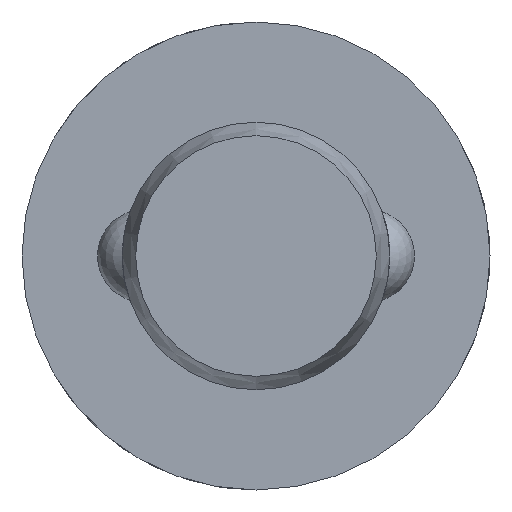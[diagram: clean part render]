
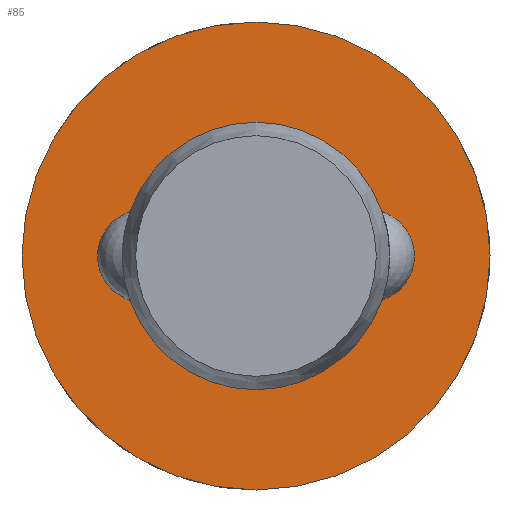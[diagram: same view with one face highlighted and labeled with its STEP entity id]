
A CAD part, left-side view. The second image highlights one B-rep face of the part: STEP entity #85.
In plain terms, the highlighted planar face has unit normal (-1, 0, 0).
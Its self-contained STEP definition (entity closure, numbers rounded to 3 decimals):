
#85 = ADVANCED_FACE( '', ( #130, #131 ), #132, .F. );
#130 = FACE_OUTER_BOUND( '', #200, .T. );
#131 = FACE_BOUND( '', #201, .T. );
#132 = PLANE( '', #202 );
#200 = EDGE_LOOP( '', ( #315 ) );
#201 = EDGE_LOOP( '', ( #316 ) );
#202 = AXIS2_PLACEMENT_3D( '', #317, #318, #319 );
#315 = ORIENTED_EDGE( '', *, *, #458, .F. );
#316 = ORIENTED_EDGE( '', *, *, #455, .T. );
#317 = CARTESIAN_POINT( '', ( 38.2, 4., 0. ) );
#318 = DIRECTION( '', ( 1., 0., 0. ) );
#319 = DIRECTION( '', ( 0., 0., -1. ) );
#455 = EDGE_CURVE( '', #528, #528, #529, .T. );
#458 = EDGE_CURVE( '', #534, #534, #535, .T. );
#528 = VERTEX_POINT( '', #732 );
#529 = CIRCLE( '', #733, 4. );
#534 = VERTEX_POINT( '', #820 );
#535 = CIRCLE( '', #821, 7. );
#732 = CARTESIAN_POINT( '', ( 38.2, 0., -4. ) );
#733 = AXIS2_PLACEMENT_3D( '', #898, #899, #900 );
#820 = CARTESIAN_POINT( '', ( 38.2, 0., -7. ) );
#821 = AXIS2_PLACEMENT_3D( '', #901, #902, #903 );
#898 = CARTESIAN_POINT( '', ( 38.2, 0., 0. ) );
#899 = DIRECTION( '', ( 1., 0., 0. ) );
#900 = DIRECTION( '', ( 0., 0., -1. ) );
#901 = CARTESIAN_POINT( '', ( 38.2, 0., 0. ) );
#902 = DIRECTION( '', ( 1., 0., 0. ) );
#903 = DIRECTION( '', ( 0., 0., -1. ) );
